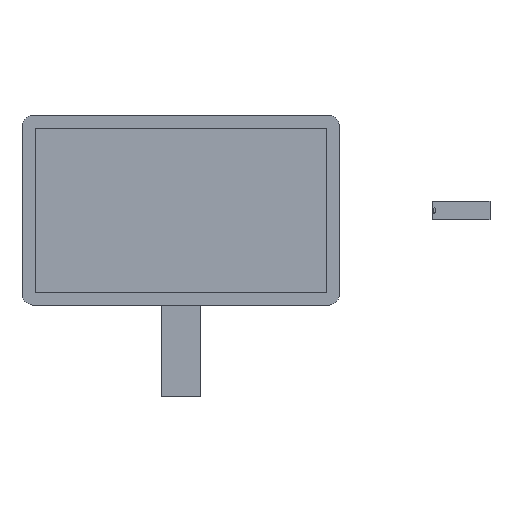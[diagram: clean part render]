
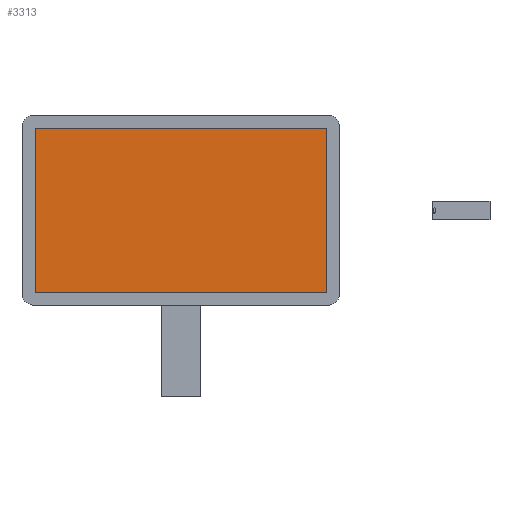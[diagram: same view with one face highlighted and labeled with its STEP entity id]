
A CAD part, top view. The second image highlights one B-rep face of the part: STEP entity #3313.
In plain terms, the highlighted planar face has unit normal (0, 0, 1).
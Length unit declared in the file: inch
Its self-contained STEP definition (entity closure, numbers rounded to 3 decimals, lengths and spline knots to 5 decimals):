
#171 = DIRECTION ( 'NONE',  ( 0., 1., 0. ) ) ;
#1644 = VECTOR ( 'NONE', #171, 39.37008 ) ;
#1660 = VECTOR ( 'NONE', #48566, 39.37008 ) ;
#2736 = ORIENTED_EDGE ( 'NONE', *, *, #117555, .T. ) ;
#2770 = VERTEX_POINT ( 'NONE', #50249 ) ;
#2843 = DIRECTION ( 'NONE',  ( 0., 0., 1. ) ) ;
#3313 = ADVANCED_FACE ( 'NONE', ( #59680 ), #94362, .T. ) ;
#9113 = EDGE_CURVE ( 'NONE', #90320, #2770, #67661, .T. ) ;
#10883 = CARTESIAN_POINT ( 'NONE',  ( 0., -5.29382, 0.54527 ) ) ;
#17605 = LINE ( 'NONE', #18788, #1644 ) ;
#17979 = VERTEX_POINT ( 'NONE', #65716 ) ;
#18788 = CARTESIAN_POINT ( 'NONE',  ( 9.4076, 0., 0.54527 ) ) ;
#29319 = VERTEX_POINT ( 'NONE', #75488 ) ;
#35557 = ORIENTED_EDGE ( 'NONE', *, *, #109675, .T. ) ;
#48566 = DIRECTION ( 'NONE',  ( 1., 0., 0. ) ) ;
#50249 = CARTESIAN_POINT ( 'NONE',  ( -9.40921, -5.29382, 0.54527 ) ) ;
#51115 = ORIENTED_EDGE ( 'NONE', *, *, #9113, .T. ) ;
#55326 = CARTESIAN_POINT ( 'NONE',  ( -9.40921, 5.31315, 0.54527 ) ) ;
#57893 = CARTESIAN_POINT ( 'NONE',  ( 0., 5.31315, 0.54527 ) ) ;
#59680 = FACE_OUTER_BOUND ( 'NONE', #85413, .T. ) ;
#65716 = CARTESIAN_POINT ( 'NONE',  ( 9.4076, 5.31315, 0.54527 ) ) ;
#67661 = LINE ( 'NONE', #96897, #88765 ) ;
#67740 = ORIENTED_EDGE ( 'NONE', *, *, #103129, .T. ) ;
#75488 = CARTESIAN_POINT ( 'NONE',  ( 9.4076, -5.29382, 0.54527 ) ) ;
#77045 = LINE ( 'NONE', #57893, #92781 ) ;
#77837 = DIRECTION ( 'NONE',  ( 0., -1., 0. ) ) ;
#85413 = EDGE_LOOP ( 'NONE', ( #67740, #2736, #35557, #51115 ) ) ;
#85423 = DIRECTION ( 'NONE',  ( -1., 0., 0. ) ) ;
#88765 = VECTOR ( 'NONE', #77837, 39.37008 ) ;
#90320 = VERTEX_POINT ( 'NONE', #55326 ) ;
#92781 = VECTOR ( 'NONE', #85423, 39.37008 ) ;
#94362 = PLANE ( 'NONE',  #94446 ) ;
#94446 = AXIS2_PLACEMENT_3D ( 'NONE', #96134, #2843, #112949 ) ;
#96134 = CARTESIAN_POINT ( 'NONE',  ( 0., 0., 0.54527 ) ) ;
#96897 = CARTESIAN_POINT ( 'NONE',  ( -9.40921, 0., 0.54527 ) ) ;
#103129 = EDGE_CURVE ( 'NONE', #2770, #29319, #111398, .T. ) ;
#109675 = EDGE_CURVE ( 'NONE', #17979, #90320, #77045, .T. ) ;
#111398 = LINE ( 'NONE', #10883, #1660 ) ;
#112949 = DIRECTION ( 'NONE',  ( 1., 0., 0. ) ) ;
#117555 = EDGE_CURVE ( 'NONE', #29319, #17979, #17605, .T. ) ;
